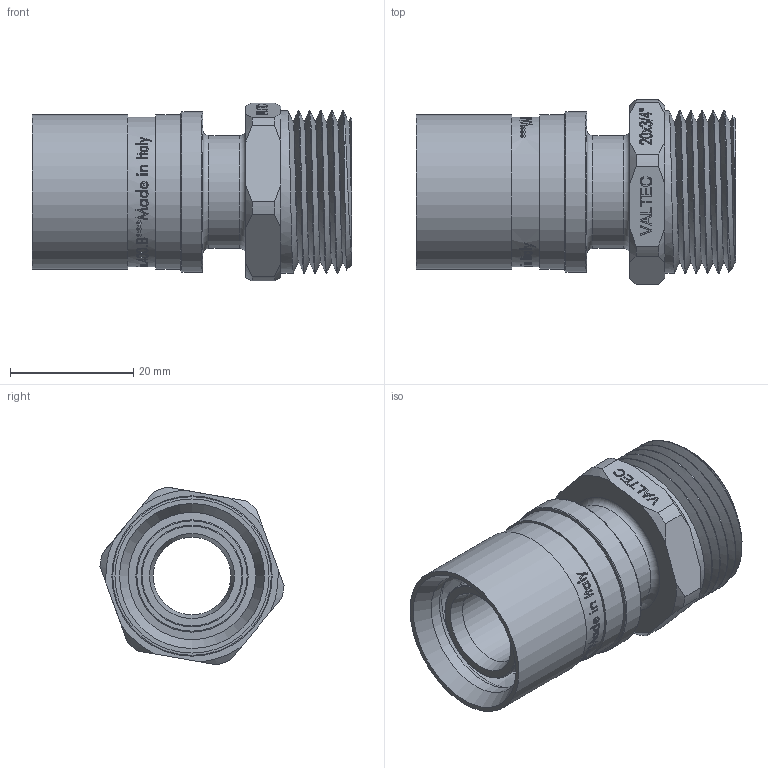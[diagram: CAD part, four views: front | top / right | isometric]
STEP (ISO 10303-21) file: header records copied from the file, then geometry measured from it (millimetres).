
FILE_DESCRIPTION(/* description */ (''),/* implementation_level */ '2;1');
FILE_NAME(/* name */ 'F:\Артём\00000\Работа удаленка\Аксеальные фитинги\VTm.401.BG.002005.stp',/* time_stamp */ '2021-01-25T14:12:05+03:00',/* author */ ('almis'),/* organization */ (''),/* preprocessor_version */ 'ST-DEVELOPER v18',/* originating_system */ 'Autodesk Inventor 2020',/* authorisation */ '');
FILE_SCHEMA (('AUTOMOTIVE_DESIGN { 1 0 10303 214 3 1 1 }'));
Length unit declared in the file: millimetre
Products named in the file (1): VTm.403.BG.001616
Bounding box: 51.76 x 29.84 x 28.86 mm (x, y, z)
Volume: 11687.3 mm3; surface area: 11321.3 mm2
Topology: 1 solids, 1 shells, 999 faces, 2734 edges, 1841 vertices
Faces by surface type: plane 434, bspline 422, cylinder 96, torus 24, cone 23
Full cylindrical faces by diameter (mm): 12.6 x1, 15.7 x5, 16.5 x4, 18.2 x1, 18.3 x1, 20 x1, 20.65 x2, 22.8 x5, 24.3 x1, 25 x2, 26 x1, 26.4 x4
Entity records: 40185 total; most frequent: CARTESIAN_POINT 17356, ORIENTED_EDGE 5468, DIRECTION 3406, EDGE_CURVE 2734, VERTEX_POINT 1841, LINE 1428, VECTOR 1428, EDGE_LOOP 1105
